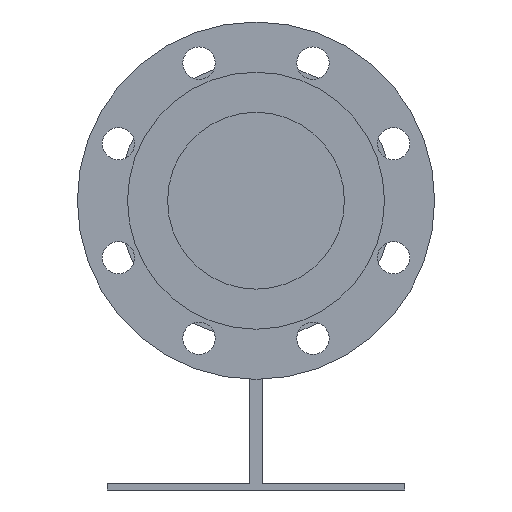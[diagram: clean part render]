
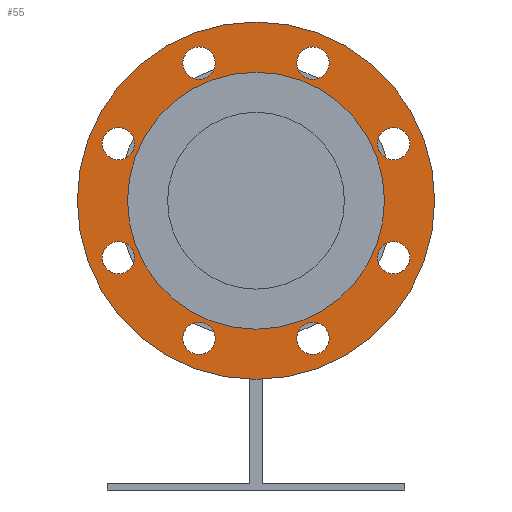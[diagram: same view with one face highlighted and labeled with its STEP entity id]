
A CAD part, left-side view. The second image highlights one B-rep face of the part: STEP entity #55.
In plain terms, the highlighted planar face has unit normal (-1, 0, 0).
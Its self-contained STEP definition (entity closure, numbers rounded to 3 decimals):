
#55=ADVANCED_FACE('',(#298,#299,#300,#301,#302,#303,#304,#305,#306,#307),#297,.T.);
#297=PLANE('',#1206);
#298=FACE_OUTER_BOUND('',#1207,.T.);
#299=FACE_BOUND('',#1208,.T.);
#300=FACE_BOUND('',#1209,.T.);
#301=FACE_BOUND('',#1210,.T.);
#302=FACE_BOUND('',#1211,.T.);
#303=FACE_BOUND('',#1212,.T.);
#304=FACE_BOUND('',#1213,.T.);
#305=FACE_BOUND('',#1214,.T.);
#306=FACE_BOUND('',#1215,.T.);
#307=FACE_BOUND('',#1216,.T.);
#1203=CARTESIAN_POINT('',(-439.,-191.865,-220.));
#1204=DIRECTION('',(-1.,0.,0.));
#1205=DIRECTION('',(0.,0.,1.));
#1206=AXIS2_PLACEMENT_3D('',#1203,#1204,#1205);
#1207=EDGE_LOOP('',(#1725,#1726));
#1208=EDGE_LOOP('',(#1727,#1728));
#1209=EDGE_LOOP('',(#1729,#1730));
#1210=EDGE_LOOP('',(#1731,#1732));
#1211=EDGE_LOOP('',(#1733,#1734));
#1212=EDGE_LOOP('',(#1735,#1736));
#1213=EDGE_LOOP('',(#1737,#1738));
#1214=EDGE_LOOP('',(#1739,#1740));
#1215=EDGE_LOOP('',(#1741,#1742));
#1216=EDGE_LOOP('',(#1743,#1744));
#1725=ORIENTED_EDGE('',*,*,#2195,.T.);
#1726=ORIENTED_EDGE('',*,*,#2196,.T.);
#1727=ORIENTED_EDGE('',*,*,#2197,.F.);
#1728=ORIENTED_EDGE('',*,*,#2198,.F.);
#1729=ORIENTED_EDGE('',*,*,#2199,.F.);
#1730=ORIENTED_EDGE('',*,*,#2200,.F.);
#1731=ORIENTED_EDGE('',*,*,#2201,.F.);
#1732=ORIENTED_EDGE('',*,*,#2202,.F.);
#1733=ORIENTED_EDGE('',*,*,#2203,.F.);
#1734=ORIENTED_EDGE('',*,*,#2204,.F.);
#1735=ORIENTED_EDGE('',*,*,#2205,.F.);
#1736=ORIENTED_EDGE('',*,*,#2206,.F.);
#1737=ORIENTED_EDGE('',*,*,#2207,.F.);
#1738=ORIENTED_EDGE('',*,*,#2208,.F.);
#1739=ORIENTED_EDGE('',*,*,#2209,.F.);
#1740=ORIENTED_EDGE('',*,*,#2210,.F.);
#1741=ORIENTED_EDGE('',*,*,#2211,.F.);
#1742=ORIENTED_EDGE('',*,*,#2212,.F.);
#1743=ORIENTED_EDGE('',*,*,#2213,.F.);
#1744=ORIENTED_EDGE('',*,*,#2214,.F.);
#2195=EDGE_CURVE('',#2913,#2914,#2915,.T.);
#2196=EDGE_CURVE('',#2914,#2913,#2921,.T.);
#2197=EDGE_CURVE('',#2927,#2928,#2929,.T.);
#2198=EDGE_CURVE('',#2928,#2927,#2935,.T.);
#2199=EDGE_CURVE('',#2941,#2942,#2943,.T.);
#2200=EDGE_CURVE('',#2942,#2941,#2949,.T.);
#2201=EDGE_CURVE('',#2955,#2956,#2957,.T.);
#2202=EDGE_CURVE('',#2956,#2955,#2963,.T.);
#2203=EDGE_CURVE('',#2969,#2970,#2971,.T.);
#2204=EDGE_CURVE('',#2970,#2969,#2977,.T.);
#2205=EDGE_CURVE('',#2983,#2984,#2985,.T.);
#2206=EDGE_CURVE('',#2984,#2983,#2991,.T.);
#2207=EDGE_CURVE('',#2997,#2998,#2999,.T.);
#2208=EDGE_CURVE('',#2998,#2997,#3005,.T.);
#2209=EDGE_CURVE('',#3011,#3012,#3013,.T.);
#2210=EDGE_CURVE('',#3012,#3011,#3019,.T.);
#2211=EDGE_CURVE('',#3025,#3026,#3027,.T.);
#2212=EDGE_CURVE('',#3026,#3025,#3033,.T.);
#2213=EDGE_CURVE('',#3039,#3040,#3041,.T.);
#2214=EDGE_CURVE('',#3040,#3039,#3047,.T.);
#2913=VERTEX_POINT('',#4321);
#2914=VERTEX_POINT('',#4322);
#2915=CIRCLE('',#4326,105.);
#2921=CIRCLE('',#4330,105.);
#2927=VERTEX_POINT('',#4331);
#2928=VERTEX_POINT('',#4332);
#2929=CIRCLE('',#4336,9.5);
#2935=CIRCLE('',#4340,9.5);
#2941=VERTEX_POINT('',#4341);
#2942=VERTEX_POINT('',#4342);
#2943=CIRCLE('',#4346,9.5);
#2949=CIRCLE('',#4350,9.5);
#2955=VERTEX_POINT('',#4351);
#2956=VERTEX_POINT('',#4352);
#2957=CIRCLE('',#4356,9.5);
#2963=CIRCLE('',#4360,9.5);
#2969=VERTEX_POINT('',#4361);
#2970=VERTEX_POINT('',#4362);
#2971=CIRCLE('',#4366,9.5);
#2977=CIRCLE('',#4370,9.5);
#2983=VERTEX_POINT('',#4371);
#2984=VERTEX_POINT('',#4372);
#2985=CIRCLE('',#4376,9.5);
#2991=CIRCLE('',#4380,9.5);
#2997=VERTEX_POINT('',#4381);
#2998=VERTEX_POINT('',#4382);
#2999=CIRCLE('',#4386,9.5);
#3005=CIRCLE('',#4390,9.5);
#3011=VERTEX_POINT('',#4391);
#3012=VERTEX_POINT('',#4392);
#3013=CIRCLE('',#4396,9.5);
#3019=CIRCLE('',#4400,9.5);
#3025=VERTEX_POINT('',#4401);
#3026=VERTEX_POINT('',#4402);
#3027=CIRCLE('',#4406,75.5);
#3033=CIRCLE('',#4410,75.5);
#3039=VERTEX_POINT('',#4411);
#3040=VERTEX_POINT('',#4412);
#3041=CIRCLE('',#4416,9.5);
#3047=CIRCLE('',#4420,9.5);
#4321=CARTESIAN_POINT('',(-439.,0.,105.));
#4322=CARTESIAN_POINT('',(-439.,0.,-105.));
#4323=CARTESIAN_POINT('',(-439.,0.,0.));
#4324=DIRECTION('',(-1.,0.,0.));
#4325=DIRECTION('',(0.,0.,1.));
#4326=AXIS2_PLACEMENT_3D('',#4323,#4324,#4325);
#4327=CARTESIAN_POINT('',(-439.,0.,0.));
#4328=DIRECTION('',(-1.,0.,0.));
#4329=DIRECTION('',(0.,0.,1.));
#4330=AXIS2_PLACEMENT_3D('',#4327,#4328,#4329);
#4331=CARTESIAN_POINT('',(-439.,80.839,-23.985));
#4332=CARTESIAN_POINT('',(-439.,80.839,-42.985));
#4333=CARTESIAN_POINT('',(-439.,80.839,-33.485));
#4334=DIRECTION('',(-1.,0.,0.));
#4335=DIRECTION('',(0.,0.,-1.));
#4336=AXIS2_PLACEMENT_3D('',#4333,#4334,#4335);
#4337=CARTESIAN_POINT('',(-439.,80.839,-33.485));
#4338=DIRECTION('',(-1.,0.,0.));
#4339=DIRECTION('',(0.,0.,-1.));
#4340=AXIS2_PLACEMENT_3D('',#4337,#4338,#4339);
#4341=CARTESIAN_POINT('',(-439.,33.485,-71.339));
#4342=CARTESIAN_POINT('',(-439.,33.485,-90.339));
#4343=CARTESIAN_POINT('',(-439.,33.485,-80.839));
#4344=DIRECTION('',(-1.,0.,0.));
#4345=DIRECTION('',(0.,0.,-1.));
#4346=AXIS2_PLACEMENT_3D('',#4343,#4344,#4345);
#4347=CARTESIAN_POINT('',(-439.,33.485,-80.839));
#4348=DIRECTION('',(-1.,0.,0.));
#4349=DIRECTION('',(0.,0.,-1.));
#4350=AXIS2_PLACEMENT_3D('',#4347,#4348,#4349);
#4351=CARTESIAN_POINT('',(-439.,-33.485,-71.339));
#4352=CARTESIAN_POINT('',(-439.,-33.485,-90.339));
#4353=CARTESIAN_POINT('',(-439.,-33.485,-80.839));
#4354=DIRECTION('',(-1.,0.,0.));
#4355=DIRECTION('',(0.,0.,-1.));
#4356=AXIS2_PLACEMENT_3D('',#4353,#4354,#4355);
#4357=CARTESIAN_POINT('',(-439.,-33.485,-80.839));
#4358=DIRECTION('',(-1.,0.,0.));
#4359=DIRECTION('',(0.,0.,-1.));
#4360=AXIS2_PLACEMENT_3D('',#4357,#4358,#4359);
#4361=CARTESIAN_POINT('',(-439.,-80.839,-23.985));
#4362=CARTESIAN_POINT('',(-439.,-80.839,-42.985));
#4363=CARTESIAN_POINT('',(-439.,-80.839,-33.485));
#4364=DIRECTION('',(-1.,0.,0.));
#4365=DIRECTION('',(0.,0.,-1.));
#4366=AXIS2_PLACEMENT_3D('',#4363,#4364,#4365);
#4367=CARTESIAN_POINT('',(-439.,-80.839,-33.485));
#4368=DIRECTION('',(-1.,0.,0.));
#4369=DIRECTION('',(0.,0.,-1.));
#4370=AXIS2_PLACEMENT_3D('',#4367,#4368,#4369);
#4371=CARTESIAN_POINT('',(-439.,-80.839,42.985));
#4372=CARTESIAN_POINT('',(-439.,-80.839,23.985));
#4373=CARTESIAN_POINT('',(-439.,-80.839,33.485));
#4374=DIRECTION('',(-1.,0.,0.));
#4375=DIRECTION('',(0.,0.,-1.));
#4376=AXIS2_PLACEMENT_3D('',#4373,#4374,#4375);
#4377=CARTESIAN_POINT('',(-439.,-80.839,33.485));
#4378=DIRECTION('',(-1.,0.,0.));
#4379=DIRECTION('',(0.,0.,-1.));
#4380=AXIS2_PLACEMENT_3D('',#4377,#4378,#4379);
#4381=CARTESIAN_POINT('',(-439.,-33.485,90.34));
#4382=CARTESIAN_POINT('',(-439.,-33.485,71.34));
#4383=CARTESIAN_POINT('',(-439.,-33.485,80.84));
#4384=DIRECTION('',(-1.,0.,0.));
#4385=DIRECTION('',(0.,0.,-1.));
#4386=AXIS2_PLACEMENT_3D('',#4383,#4384,#4385);
#4387=CARTESIAN_POINT('',(-439.,-33.485,80.84));
#4388=DIRECTION('',(-1.,0.,0.));
#4389=DIRECTION('',(0.,0.,-1.));
#4390=AXIS2_PLACEMENT_3D('',#4387,#4388,#4389);
#4391=CARTESIAN_POINT('',(-439.,33.485,90.34));
#4392=CARTESIAN_POINT('',(-439.,33.485,71.34));
#4393=CARTESIAN_POINT('',(-439.,33.485,80.84));
#4394=DIRECTION('',(-1.,0.,0.));
#4395=DIRECTION('',(0.,0.,-1.));
#4396=AXIS2_PLACEMENT_3D('',#4393,#4394,#4395);
#4397=CARTESIAN_POINT('',(-439.,33.485,80.84));
#4398=DIRECTION('',(-1.,0.,0.));
#4399=DIRECTION('',(0.,0.,-1.));
#4400=AXIS2_PLACEMENT_3D('',#4397,#4398,#4399);
#4401=CARTESIAN_POINT('',(-439.,0.,-75.5));
#4402=CARTESIAN_POINT('',(-439.,0.,75.5));
#4403=CARTESIAN_POINT('',(-439.,0.,0.));
#4404=DIRECTION('',(-1.,0.,0.));
#4405=DIRECTION('',(0.,0.,1.));
#4406=AXIS2_PLACEMENT_3D('',#4403,#4404,#4405);
#4407=CARTESIAN_POINT('',(-439.,0.,0.));
#4408=DIRECTION('',(-1.,0.,0.));
#4409=DIRECTION('',(0.,0.,1.));
#4410=AXIS2_PLACEMENT_3D('',#4407,#4408,#4409);
#4411=CARTESIAN_POINT('',(-439.,80.839,42.985));
#4412=CARTESIAN_POINT('',(-439.,80.839,23.985));
#4413=CARTESIAN_POINT('',(-439.,80.839,33.485));
#4414=DIRECTION('',(-1.,0.,0.));
#4415=DIRECTION('',(0.,0.,-1.));
#4416=AXIS2_PLACEMENT_3D('',#4413,#4414,#4415);
#4417=CARTESIAN_POINT('',(-439.,80.839,33.485));
#4418=DIRECTION('',(-1.,0.,0.));
#4419=DIRECTION('',(0.,0.,-1.));
#4420=AXIS2_PLACEMENT_3D('',#4417,#4418,#4419);
